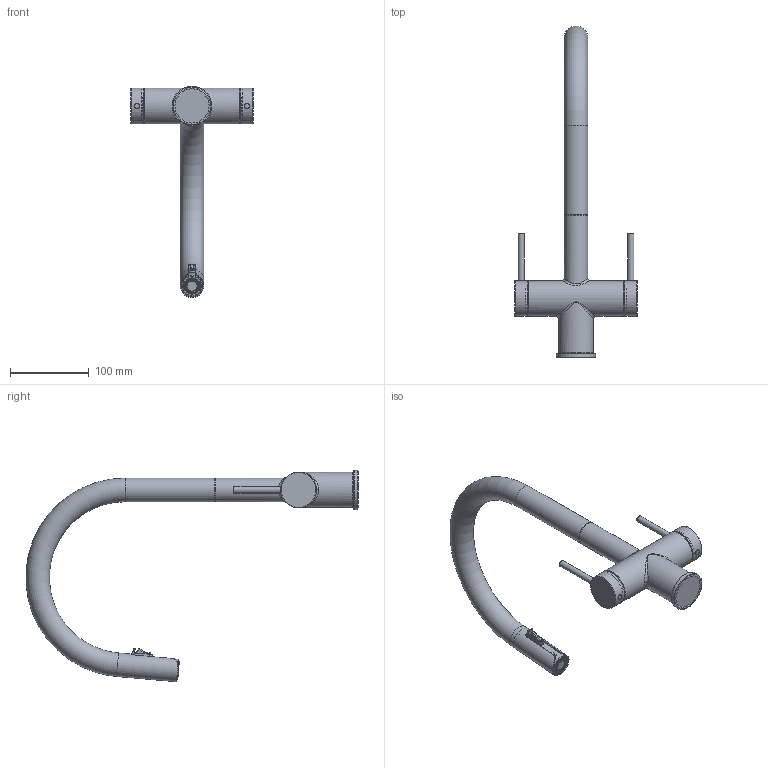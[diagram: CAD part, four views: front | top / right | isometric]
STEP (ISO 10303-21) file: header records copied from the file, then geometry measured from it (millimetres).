
FILE_DESCRIPTION(/* description */ (''),/* implementation_level */ '2;1');
FILE_NAME(/* name */ 'X:\Utilisateurs\Christian\AZ801 3D.stp',/* time_stamp */ '2018-11-28T12:53:38-05:00',/* author */ ('cjulien'),/* organization */ (''),/* preprocessor_version */ 'ST-DEVELOPER v16.13',/* originating_system */ 'Autodesk Inventor 2018',/* authorisation */ '');
FILE_SCHEMA (('AUTOMOTIVE_DESIGN { 1 0 10303 214 3 1 1 }'));
Length unit declared in the file: millimetre
Products named in the file (1): AZ801_Shrinkwrap_1
Bounding box: 155.74 x 421.7 x 268.65 mm (x, y, z)
Volume: 478022.2 mm3; surface area: 184365.9 mm2
Topology: 6 solids, 6 shells, 3507 faces, 9196 edges, 5641 vertices
Faces by surface type: cylinder 1118, bspline 858, plane 724, torus 477, sphere 180, cone 150
Full cylindrical faces by diameter (mm): 2.2 x18, 3 x2, 3.7 x1, 4.5 x2, 5.3 x2, 6.2 x3, 6.7 x2, 8 x2, 8.2 x2, 10.5 x2, 13.5 x1, 14 x2, 14.9 x1, 15 x1, 17 x1, 17.9 x1, 19.04 x1, 19.4 x1, 20 x1, 20.99 x1, 21.29 x2, 22.149 x1, 22.9 x1, 23.1 x1, 24 x9, 24.4 x1, 25.73 x1, 26.187 x1, 27 x1, 27.305 x2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
Entity records: 202402 total; most frequent: CARTESIAN_POINT 120166, ORIENTED_EDGE 17766, DIRECTION 15466, EDGE_CURVE 8883, AXIS2_PLACEMENT_3D 6459, VERTEX_POINT 5562, EDGE_LOOP 3804, FACE_OUTER_BOUND 3491
